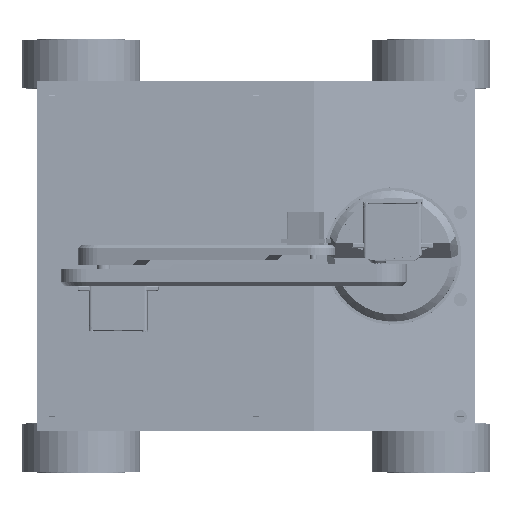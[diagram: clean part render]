
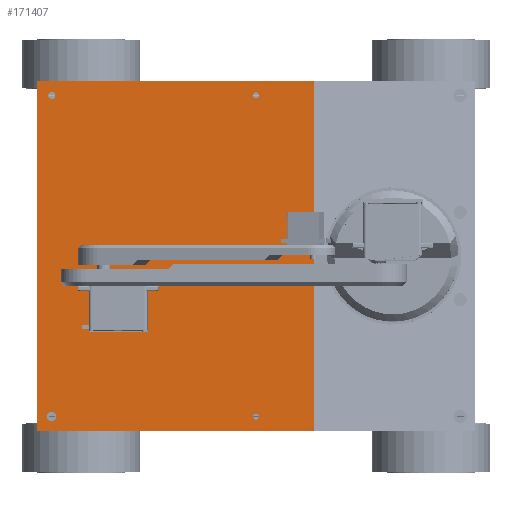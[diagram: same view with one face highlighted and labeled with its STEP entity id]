
A CAD part, front view. The second image highlights one B-rep face of the part: STEP entity #171407.
In plain terms, the highlighted planar face has unit normal (0, -1, 0) as drawn and (0, 0, 1) by its records, which use the part's own axes.
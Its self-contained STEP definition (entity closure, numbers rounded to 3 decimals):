
#12112=FACE_BOUND('',#26912,.T.);
#12113=FACE_BOUND('',#26913,.T.);
#12114=FACE_BOUND('',#26914,.T.);
#12115=FACE_BOUND('',#26915,.T.);
#17004=FACE_OUTER_BOUND('',#26911,.T.);
#26911=EDGE_LOOP('',(#133687,#133688,#133689,#133690));
#26912=EDGE_LOOP('',(#133691));
#26913=EDGE_LOOP('',(#133692));
#26914=EDGE_LOOP('',(#133693));
#26915=EDGE_LOOP('',(#133694));
#33861=CIRCLE('',#185037,2.5);
#33863=CIRCLE('',#185040,3.235);
#33865=CIRCLE('',#185043,2.1);
#33867=CIRCLE('',#185046,2.1);
#46318=LINE('',#265578,#64370);
#46321=LINE('',#265584,#64373);
#46324=LINE('',#265590,#64376);
#46327=LINE('',#265594,#64379);
#64370=VECTOR('',#213539,10.);
#64373=VECTOR('',#213544,10.);
#64376=VECTOR('',#213549,10.);
#64379=VECTOR('',#213554,10.);
#80186=VERTEX_POINT('',#265548);
#80188=VERTEX_POINT('',#265554);
#80190=VERTEX_POINT('',#265560);
#80192=VERTEX_POINT('',#265566);
#80196=VERTEX_POINT('',#265575);
#80197=VERTEX_POINT('',#265577);
#80199=VERTEX_POINT('',#265583);
#80201=VERTEX_POINT('',#265589);
#99322=EDGE_CURVE('',#80186,#80186,#33861,.T.);
#99325=EDGE_CURVE('',#80188,#80188,#33863,.T.);
#99328=EDGE_CURVE('',#80190,#80190,#33865,.T.);
#99331=EDGE_CURVE('',#80192,#80192,#33867,.T.);
#99336=EDGE_CURVE('',#80197,#80196,#46318,.T.);
#99339=EDGE_CURVE('',#80199,#80197,#46321,.T.);
#99342=EDGE_CURVE('',#80201,#80199,#46324,.T.);
#99345=EDGE_CURVE('',#80196,#80201,#46327,.T.);
#133687=ORIENTED_EDGE('',*,*,#99345,.T.);
#133688=ORIENTED_EDGE('',*,*,#99342,.T.);
#133689=ORIENTED_EDGE('',*,*,#99339,.T.);
#133690=ORIENTED_EDGE('',*,*,#99336,.T.);
#133691=ORIENTED_EDGE('',*,*,#99331,.T.);
#133692=ORIENTED_EDGE('',*,*,#99328,.T.);
#133693=ORIENTED_EDGE('',*,*,#99325,.T.);
#133694=ORIENTED_EDGE('',*,*,#99322,.T.);
#164223=PLANE('',#185052);
#171407=ADVANCED_FACE('',(#17004,#12112,#12113,#12114,#12115),#164223,.T.);
#185037=AXIS2_PLACEMENT_3D('',#265549,#213509,#213510);
#185040=AXIS2_PLACEMENT_3D('',#265555,#213516,#213517);
#185043=AXIS2_PLACEMENT_3D('',#265561,#213523,#213524);
#185046=AXIS2_PLACEMENT_3D('',#265567,#213530,#213531);
#185052=AXIS2_PLACEMENT_3D('',#265595,#213555,#213556);
#213509=DIRECTION('center_axis',(0.,0.,-1.));
#213510=DIRECTION('ref_axis',(-1.,0.,0.));
#213516=DIRECTION('center_axis',(0.,0.,-1.));
#213517=DIRECTION('ref_axis',(-1.,0.,0.));
#213523=DIRECTION('center_axis',(0.,0.,-1.));
#213524=DIRECTION('ref_axis',(-1.,0.,0.));
#213530=DIRECTION('center_axis',(0.,0.,-1.));
#213531=DIRECTION('ref_axis',(-1.,0.,0.));
#213539=DIRECTION('',(1.,0.,0.));
#213544=DIRECTION('',(0.,-1.,0.));
#213549=DIRECTION('',(-1.,0.,0.));
#213554=DIRECTION('',(0.,1.,0.));
#213555=DIRECTION('center_axis',(0.,0.,1.));
#213556=DIRECTION('ref_axis',(1.,0.,0.));
#265548=CARTESIAN_POINT('',(222.5,0.,5.));
#265549=CARTESIAN_POINT('Origin',(220.,0.,
5.));
#265554=CARTESIAN_POINT('',(3.235,0.,5.));
#265555=CARTESIAN_POINT('Origin',(0.,0.,
5.));
#265560=CARTESIAN_POINT('',(222.1,-140.,5.));
#265561=CARTESIAN_POINT('Origin',(220.,-140.,5.));
#265566=CARTESIAN_POINT('',(2.1,-140.,5.));
#265567=CARTESIAN_POINT('Origin',(0.,-140.,
5.));
#265575=CARTESIAN_POINT('',(230.,-180.,5.));
#265577=CARTESIAN_POINT('',(-10.,-180.,5.));
#265578=CARTESIAN_POINT('',(-10.,-180.,5.));
#265583=CARTESIAN_POINT('',(-10.,10.,5.));
#265584=CARTESIAN_POINT('',(-10.,10.,5.));
#265589=CARTESIAN_POINT('',(230.,10.,5.));
#265590=CARTESIAN_POINT('',(230.,10.,5.));
#265594=CARTESIAN_POINT('',(230.,-180.,5.));
#265595=CARTESIAN_POINT('Origin',(110.,-85.,5.));
